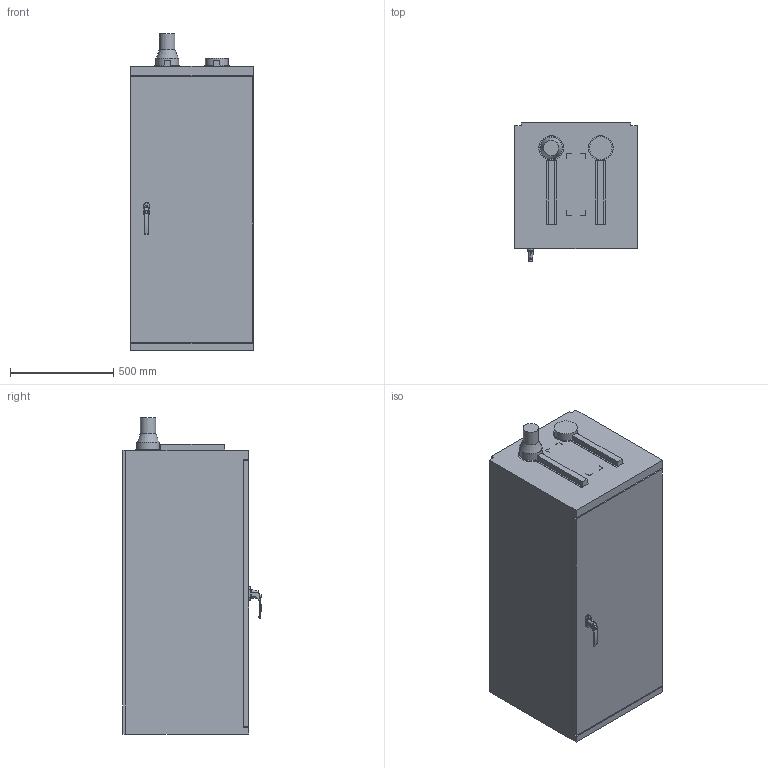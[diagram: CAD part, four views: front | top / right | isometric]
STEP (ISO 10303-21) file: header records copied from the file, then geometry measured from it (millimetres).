
FILE_DESCRIPTION(/* description */ ('Unknown'),/* implementation_level */ '2;1');
FILE_NAME(/* name */ 'Sicherheitsschrank Typ G90_D00100211',/* time_stamp */ '2019-04-11T13:27:49+02:00',/* author */ ('Unknown'),/* organization */ ('Unknown'),/* preprocessor_version */ 'ST-DEVELOPER v16.7',/* originating_system */ 'DEX',/* authorisation */ $);
FILE_SCHEMA (('AUTOMOTIVE_DESIGN {1 0 10303 214 3 1 1}'));
Length unit declared in the file: millimetre
Products named in the file (1): Sicherheitsschrank Typ G90_D00100211
Bounding box: 595 x 671.2 x 1532 mm (x, y, z)
Volume: 499516026.6 mm3; surface area: 4202770.8 mm2
Topology: 1 solids, 1 shells, 117 faces, 283 edges, 180 vertices
Faces by surface type: plane 80, cylinder 22, bspline 10, torus 2, sphere 2, cone 1
Full cylindrical faces by diameter (mm): 15 x1, 20 x1, 75 x1, 110 x2, 120 x2
Entity records: 4388 total; most frequent: CARTESIAN_POINT 909, ORIENTED_EDGE 536, DIRECTION 517, EDGE_CURVE 268, LINE 201, VECTOR 201, VERTEX_POINT 177, AXIS2_PLACEMENT_3D 158
